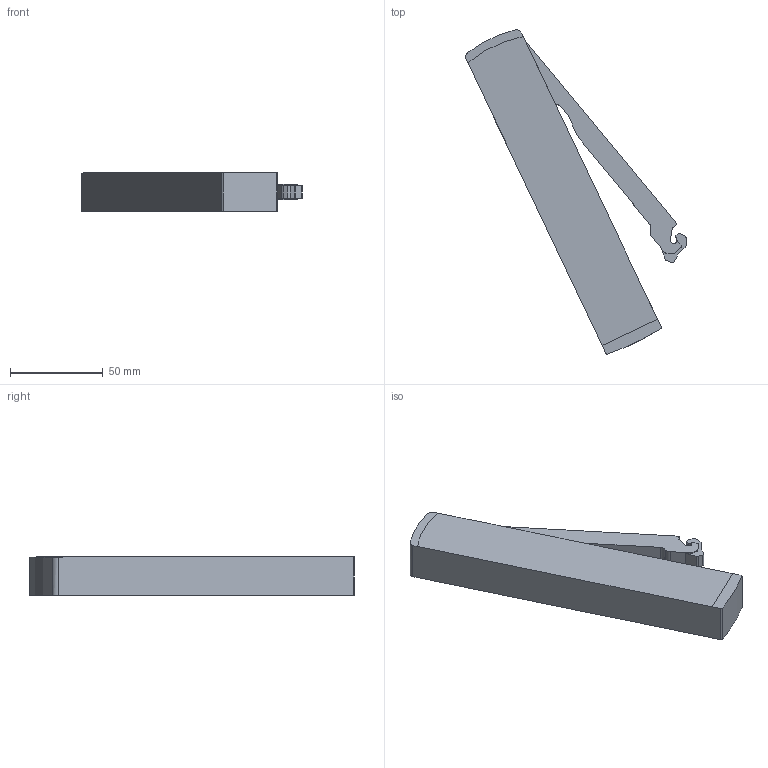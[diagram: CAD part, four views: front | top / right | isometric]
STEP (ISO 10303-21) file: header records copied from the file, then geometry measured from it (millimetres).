
FILE_DESCRIPTION (( 'STEP AP214' ), '1' );
FILE_NAME ('SE00AL(M,H)-close.STEP', '2021-04-10T01:58:47', ( 'Windows 蚚誧' ), ( '' ), 'SwSTEP 2.0', 'SolidWorks 2018', '' );
FILE_SCHEMA (( 'AUTOMOTIVE_DESIGN' ));
Length unit declared in the file: millimetre
Products named in the file (1): SE00AL(M,H)-close
Bounding box: 119.02 x 174.72 x 20.6 mm (x, y, z)
Volume: 132872.3 mm3; surface area: 25166.4 mm2
Topology: 1 solids, 1 shells, 75 faces, 213 edges, 142 vertices
Faces by surface type: plane 39, cylinder 32, bspline 4
Entity records: 3254 total; most frequent: CARTESIAN_POINT 577, ORIENTED_EDGE 426, DIRECTION 415, EDGE_CURVE 213, VERTEX_POINT 142, LINE 139, VECTOR 139, AXIS2_PLACEMENT_3D 138
